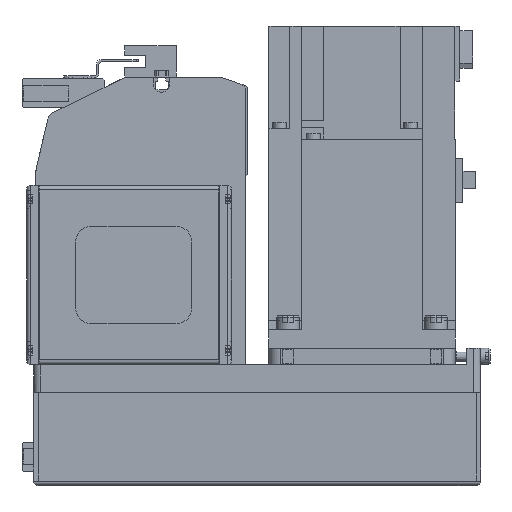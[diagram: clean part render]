
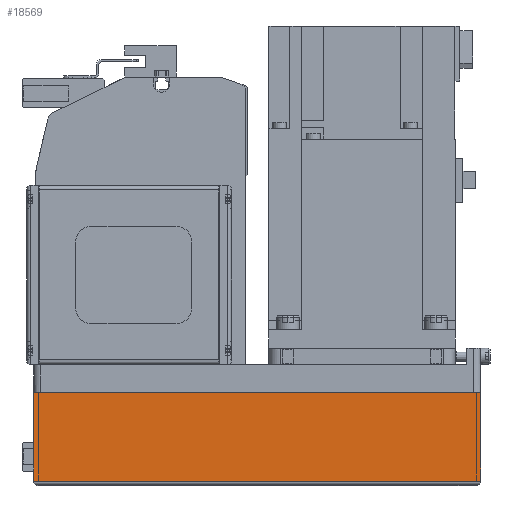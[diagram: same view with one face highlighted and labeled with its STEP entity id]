
A CAD part, left-side view. The second image highlights one B-rep face of the part: STEP entity #18569.
In plain terms, the highlighted planar face has unit normal (-1, 0, 0) as drawn and (0, 1, 0) by its records, which use the part's own axes.
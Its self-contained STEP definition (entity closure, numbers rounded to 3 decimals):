
#2886=ORIENTED_EDGE('',*,*,#7497,.F.);
#2887=ORIENTED_EDGE('',*,*,#7537,.F.);
#2888=ORIENTED_EDGE('',*,*,#7474,.T.);
#2889=ORIENTED_EDGE('',*,*,#7487,.T.);
#7474=EDGE_CURVE('',#9943,#9946,#11850,.T.);
#7487=EDGE_CURVE('',#9946,#9958,#11863,.T.);
#7497=EDGE_CURVE('',#9966,#9958,#11873,.T.);
#7537=EDGE_CURVE('',#9943,#9966,#11891,.T.);
#9943=VERTEX_POINT('',#28502);
#9946=VERTEX_POINT('',#28507);
#9958=VERTEX_POINT('',#28535);
#9966=VERTEX_POINT('',#28555);
#11850=LINE('',#28508,#13526);
#11863=LINE('',#28536,#13539);
#11873=LINE('',#28556,#13549);
#11891=LINE('',#28626,#13567);
#13526=VECTOR('',#22806,1000.);
#13539=VECTOR('',#22825,1000.);
#13549=VECTOR('',#22839,1000.);
#13567=VECTOR('',#22933,1000.);
#15059=EDGE_LOOP('',(#2886,#2887,#2888,#2889));
#16521=FACE_BOUND('',#15059,.T.);
#17816=PLANE('',#19908);
#18569=ADVANCED_FACE('',(#16521),#17816,.T.);
#19908=AXIS2_PLACEMENT_3D('',#28625,#22931,#22932);
#22806=DIRECTION('',(0.,0.,1.));
#22825=DIRECTION('',(1.,0.,0.));
#22839=DIRECTION('',(0.,0.,1.));
#22931=DIRECTION('',(0.,1.,0.));
#22932=DIRECTION('',(0.,0.,1.));
#22933=DIRECTION('',(1.,0.,0.));
#28502=CARTESIAN_POINT('',(-192.,40.,-50.));
#28507=CARTESIAN_POINT('',(-192.,40.,-12.1));
#28508=CARTESIAN_POINT('',(-192.,40.,-50.));
#28535=CARTESIAN_POINT('',(0.,40.,-12.1));
#28536=CARTESIAN_POINT('',(-192.,40.,-12.1));
#28555=CARTESIAN_POINT('',(0.,40.,-50.));
#28556=CARTESIAN_POINT('',(0.,40.,-50.));
#28625=CARTESIAN_POINT('',(-192.,40.,-50.));
#28626=CARTESIAN_POINT('',(-192.,40.,-50.));
